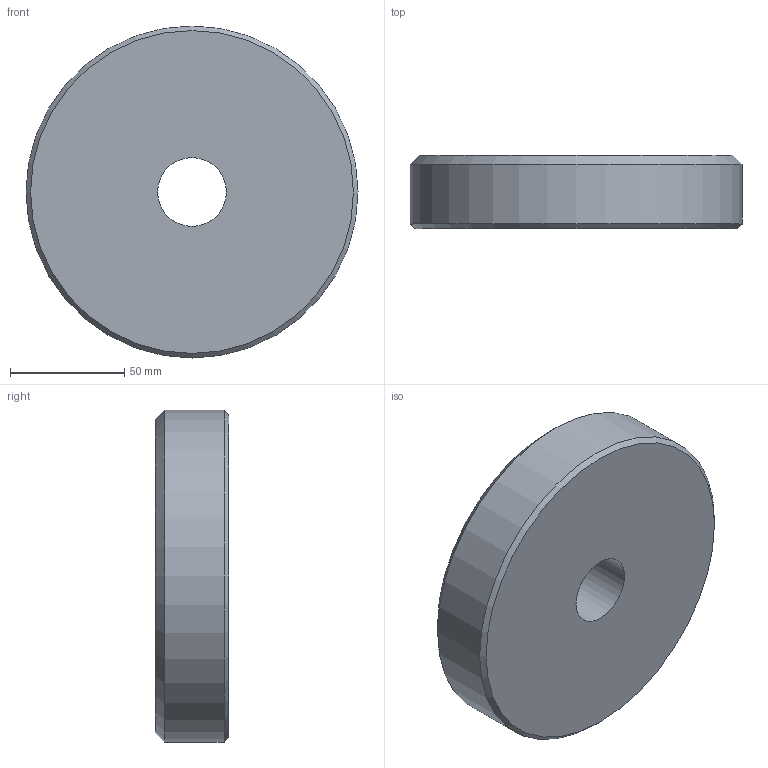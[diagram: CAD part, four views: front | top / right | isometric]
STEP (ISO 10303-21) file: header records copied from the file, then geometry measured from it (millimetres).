
FILE_DESCRIPTION(/* description */ (''),/* implementation_level */ '2;1');
FILE_NAME(/* name */ 'C:\Users\stagistaCAD\Desktop\00001640.stp',/* time_stamp */ '2018-06-15T15:57:51+02:00',/* author */ ('stagistacad'),/* organization */ (''),/* preprocessor_version */ 'ST-DEVELOPER v15.6',/* originating_system */ 'Autodesk Inventor 2015',/* authorisation */ '');
FILE_SCHEMA (('AUTOMOTIVE_DESIGN { 1 0 10303 214 3 1 1 }'));
Length unit declared in the file: millimetre
Products named in the file (1): 00001640
Bounding box: 145 x 32 x 145 mm (x, y, z)
Volume: 501316.5 mm3; surface area: 47578.1 mm2
Topology: 1 solids, 1 shells, 6 faces, 10 edges, 6 vertices
Faces by surface type: cylinder 2, cone 2, plane 2
Full cylindrical faces by diameter (mm): 30 x1, 145 x1
Entity records: 152 total; most frequent: DIRECTION 26, CARTESIAN_POINT 19, AXIS2_PLACEMENT_3D 13, EDGE_LOOP 12, ORIENTED_EDGE 12, FACE_BOUND 6, FACE_OUTER_BOUND 6, CIRCLE 6
